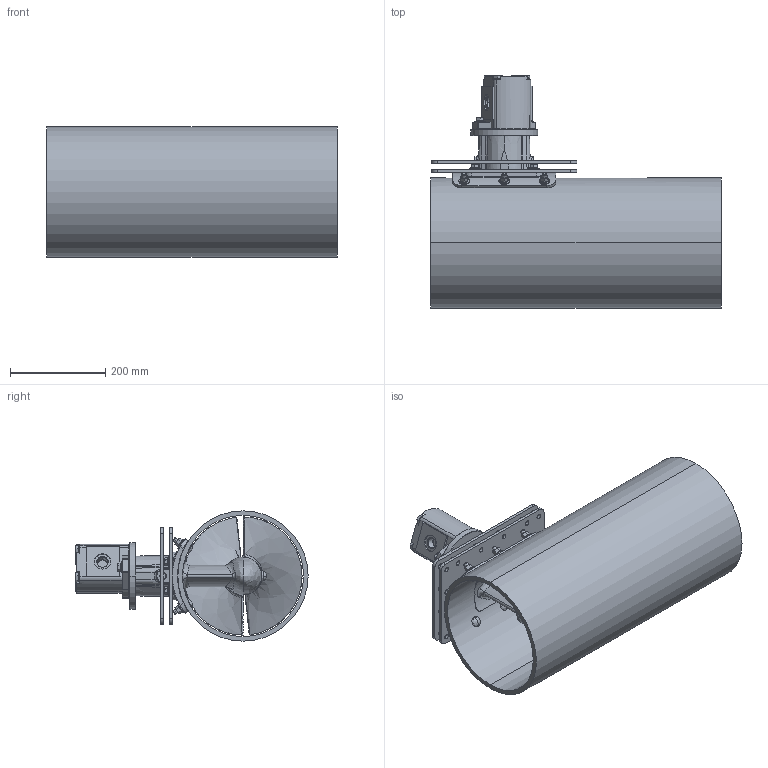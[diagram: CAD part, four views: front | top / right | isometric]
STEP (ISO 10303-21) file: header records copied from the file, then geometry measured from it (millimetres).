
FILE_DESCRIPTION (( 'STEP AP214' ), '1' );
FILE_NAME ('KP10X-H-ST_revA.STEP', '2020-09-25T20:11:36', ( '' ), ( '' ), 'SwSTEP 2.0', 'SolidWorks 2019', '' );
FILE_SCHEMA (( 'AUTOMOTIVE_DESIGN' ));
Length unit declared in the file: inch
Products named in the file (2): KP10X-H-ST_revA
Bounding box: 609.6 x 486.99 x 273.05 mm (x, y, z)
Volume: 9036017.1 mm3; surface area: 1563624 mm2
Topology: 3 solids, 3 shells, 1140 faces, 2840 edges, 1741 vertices
Faces by surface type: plane 442, cylinder 348, cone 174, bspline 139, torus 31, sphere 6
Entity records: 59526 total; most frequent: CARTESIAN_POINT 33610, ORIENTED_EDGE 5648, DIRECTION 5091, EDGE_CURVE 2824, AXIS2_PLACEMENT_3D 2011, VERTEX_POINT 1741, EDGE_LOOP 1283, FACE_OUTER_BOUND 1140
